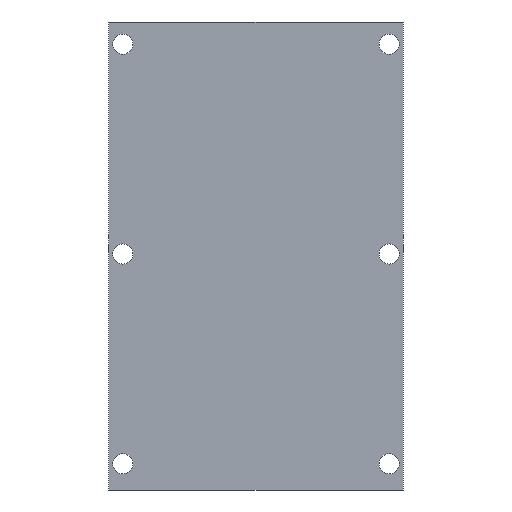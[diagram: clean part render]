
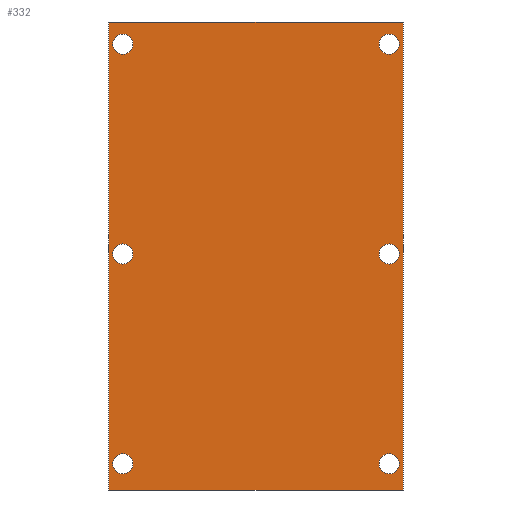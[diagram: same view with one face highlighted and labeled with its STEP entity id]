
A CAD part, front view. The second image highlights one B-rep face of the part: STEP entity #332.
In plain terms, the highlighted planar face has unit normal (0, -1, 0).
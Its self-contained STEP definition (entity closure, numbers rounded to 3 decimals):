
#1=DIRECTION('',(0.,0.,1.));
#2=VECTOR('',#1,58.);
#3=CARTESIAN_POINT('',(-18.25,0.,-29.));
#4=LINE('',#3,#2);
#5=DIRECTION('',(1.,0.,0.));
#6=VECTOR('',#5,36.5);
#7=CARTESIAN_POINT('',(-18.25,0.,29.));
#8=LINE('',#7,#6);
#9=DIRECTION('',(0.,0.,-1.));
#10=VECTOR('',#9,58.);
#11=CARTESIAN_POINT('',(18.25,0.,29.));
#12=LINE('',#11,#10);
#13=DIRECTION('',(-1.,0.,0.));
#14=VECTOR('',#13,36.5);
#15=CARTESIAN_POINT('',(18.25,0.,-29.));
#16=LINE('',#15,#14);
#17=CARTESIAN_POINT('',(-16.5,0.,-25.75));
#18=DIRECTION('',(0.,1.,0.));
#19=DIRECTION('',(1.,0.,0.));
#20=AXIS2_PLACEMENT_3D('',#17,#18,#19);
#22=CARTESIAN_POINT('',(-16.5,0.,-25.75));
#23=DIRECTION('',(0.,1.,0.));
#24=DIRECTION('',(-1.,0.,0.));
#25=AXIS2_PLACEMENT_3D('',#22,#23,#24);
#27=CARTESIAN_POINT('',(16.5,0.,-25.75));
#28=DIRECTION('',(0.,1.,0.));
#29=DIRECTION('',(1.,0.,0.));
#30=AXIS2_PLACEMENT_3D('',#27,#28,#29);
#32=CARTESIAN_POINT('',(16.5,0.,-25.75));
#33=DIRECTION('',(0.,1.,0.));
#34=DIRECTION('',(-1.,0.,0.));
#35=AXIS2_PLACEMENT_3D('',#32,#33,#34);
#37=CARTESIAN_POINT('',(-16.5,0.,0.25));
#38=DIRECTION('',(0.,1.,0.));
#39=DIRECTION('',(1.,0.,0.));
#40=AXIS2_PLACEMENT_3D('',#37,#38,#39);
#42=CARTESIAN_POINT('',(-16.5,0.,0.25));
#43=DIRECTION('',(0.,1.,0.));
#44=DIRECTION('',(-1.,0.,0.));
#45=AXIS2_PLACEMENT_3D('',#42,#43,#44);
#47=CARTESIAN_POINT('',(16.5,0.,0.25));
#48=DIRECTION('',(0.,1.,0.));
#49=DIRECTION('',(1.,0.,0.));
#50=AXIS2_PLACEMENT_3D('',#47,#48,#49);
#52=CARTESIAN_POINT('',(16.5,0.,0.25));
#53=DIRECTION('',(0.,1.,0.));
#54=DIRECTION('',(-1.,0.,0.));
#55=AXIS2_PLACEMENT_3D('',#52,#53,#54);
#57=CARTESIAN_POINT('',(-16.5,0.,26.25));
#58=DIRECTION('',(0.,1.,0.));
#59=DIRECTION('',(1.,0.,0.));
#60=AXIS2_PLACEMENT_3D('',#57,#58,#59);
#62=CARTESIAN_POINT('',(-16.5,0.,26.25));
#63=DIRECTION('',(0.,1.,0.));
#64=DIRECTION('',(-1.,0.,0.));
#65=AXIS2_PLACEMENT_3D('',#62,#63,#64);
#67=CARTESIAN_POINT('',(16.5,0.,26.25));
#68=DIRECTION('',(0.,1.,0.));
#69=DIRECTION('',(1.,0.,0.));
#70=AXIS2_PLACEMENT_3D('',#67,#68,#69);
#72=CARTESIAN_POINT('',(16.5,0.,26.25));
#73=DIRECTION('',(0.,1.,0.));
#74=DIRECTION('',(-1.,0.,0.));
#75=AXIS2_PLACEMENT_3D('',#72,#73,#74);
#217=CARTESIAN_POINT('',(-18.25,0.,-29.));
#218=CARTESIAN_POINT('',(-18.25,0.,29.));
#219=VERTEX_POINT('',#217);
#220=VERTEX_POINT('',#218);
#221=CARTESIAN_POINT('',(18.25,0.,29.));
#222=VERTEX_POINT('',#221);
#223=CARTESIAN_POINT('',(18.25,0.,-29.));
#224=VERTEX_POINT('',#223);
#233=CARTESIAN_POINT('',(-15.25,0.,-25.75));
#234=CARTESIAN_POINT('',(-17.75,0.,-25.75));
#235=VERTEX_POINT('',#233);
#236=VERTEX_POINT('',#234);
#237=CARTESIAN_POINT('',(17.75,0.,-25.75));
#238=CARTESIAN_POINT('',(15.25,0.,-25.75));
#239=VERTEX_POINT('',#237);
#240=VERTEX_POINT('',#238);
#241=CARTESIAN_POINT('',(-15.25,0.,0.25));
#242=CARTESIAN_POINT('',(-17.75,0.,0.25));
#243=VERTEX_POINT('',#241);
#244=VERTEX_POINT('',#242);
#245=CARTESIAN_POINT('',(17.75,0.,0.25));
#246=CARTESIAN_POINT('',(15.25,0.,0.25));
#247=VERTEX_POINT('',#245);
#248=VERTEX_POINT('',#246);
#249=CARTESIAN_POINT('',(-15.25,0.,26.25));
#250=CARTESIAN_POINT('',(-17.75,0.,26.25));
#251=VERTEX_POINT('',#249);
#252=VERTEX_POINT('',#250);
#253=CARTESIAN_POINT('',(17.75,0.,26.25));
#254=CARTESIAN_POINT('',(15.25,0.,26.25));
#255=VERTEX_POINT('',#253);
#256=VERTEX_POINT('',#254);
#281=CARTESIAN_POINT('',(0.,0.,0.));
#282=DIRECTION('',(0.,1.,0.));
#283=DIRECTION('',(1.,0.,0.));
#284=AXIS2_PLACEMENT_3D('',#281,#282,#283);
#285=PLANE('',#284);
#287=ORIENTED_EDGE('',*,*,#286,.T.);
#289=ORIENTED_EDGE('',*,*,#288,.T.);
#291=ORIENTED_EDGE('',*,*,#290,.T.);
#293=ORIENTED_EDGE('',*,*,#292,.T.);
#294=EDGE_LOOP('',(#287,#289,#291,#293));
#295=FACE_OUTER_BOUND('',#294,.F.);
#297=ORIENTED_EDGE('',*,*,#296,.F.);
#299=ORIENTED_EDGE('',*,*,#298,.F.);
#300=EDGE_LOOP('',(#297,#299));
#301=FACE_BOUND('',#300,.F.);
#303=ORIENTED_EDGE('',*,*,#302,.F.);
#305=ORIENTED_EDGE('',*,*,#304,.F.);
#306=EDGE_LOOP('',(#303,#305));
#307=FACE_BOUND('',#306,.F.);
#309=ORIENTED_EDGE('',*,*,#308,.F.);
#311=ORIENTED_EDGE('',*,*,#310,.F.);
#312=EDGE_LOOP('',(#309,#311));
#313=FACE_BOUND('',#312,.F.);
#315=ORIENTED_EDGE('',*,*,#314,.F.);
#317=ORIENTED_EDGE('',*,*,#316,.F.);
#318=EDGE_LOOP('',(#315,#317));
#319=FACE_BOUND('',#318,.F.);
#321=ORIENTED_EDGE('',*,*,#320,.F.);
#323=ORIENTED_EDGE('',*,*,#322,.F.);
#324=EDGE_LOOP('',(#321,#323));
#325=FACE_BOUND('',#324,.F.);
#327=ORIENTED_EDGE('',*,*,#326,.F.);
#329=ORIENTED_EDGE('',*,*,#328,.F.);
#330=EDGE_LOOP('',(#327,#329));
#331=FACE_BOUND('',#330,.F.);
#332=ADVANCED_FACE('',(#295,#301,#307,#313,#319,#325,#331),#285,.F.);
#21=CIRCLE('',#20,1.25);
#26=CIRCLE('',#25,1.25);
#31=CIRCLE('',#30,1.25);
#36=CIRCLE('',#35,1.25);
#41=CIRCLE('',#40,1.25);
#46=CIRCLE('',#45,1.25);
#51=CIRCLE('',#50,1.25);
#56=CIRCLE('',#55,1.25);
#61=CIRCLE('',#60,1.25);
#66=CIRCLE('',#65,1.25);
#71=CIRCLE('',#70,1.25);
#76=CIRCLE('',#75,1.25);
#286=EDGE_CURVE('',#219,#220,#4,.T.);
#288=EDGE_CURVE('',#220,#222,#8,.T.);
#290=EDGE_CURVE('',#222,#224,#12,.T.);
#292=EDGE_CURVE('',#224,#219,#16,.T.);
#296=EDGE_CURVE('',#235,#236,#21,.T.);
#298=EDGE_CURVE('',#236,#235,#26,.T.);
#302=EDGE_CURVE('',#239,#240,#31,.T.);
#304=EDGE_CURVE('',#240,#239,#36,.T.);
#308=EDGE_CURVE('',#243,#244,#41,.T.);
#310=EDGE_CURVE('',#244,#243,#46,.T.);
#314=EDGE_CURVE('',#247,#248,#51,.T.);
#316=EDGE_CURVE('',#248,#247,#56,.T.);
#320=EDGE_CURVE('',#251,#252,#61,.T.);
#322=EDGE_CURVE('',#252,#251,#66,.T.);
#326=EDGE_CURVE('',#255,#256,#71,.T.);
#328=EDGE_CURVE('',#256,#255,#76,.T.);
